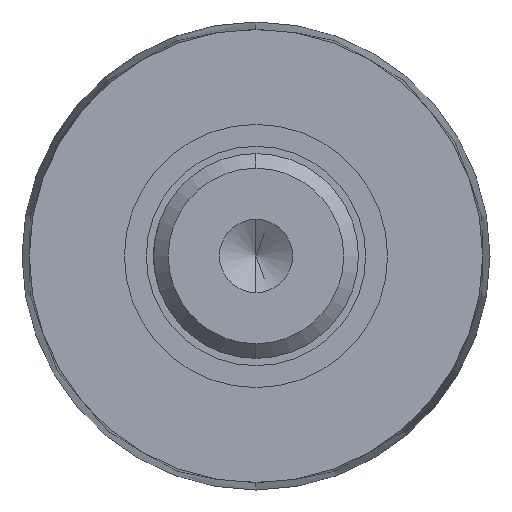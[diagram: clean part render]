
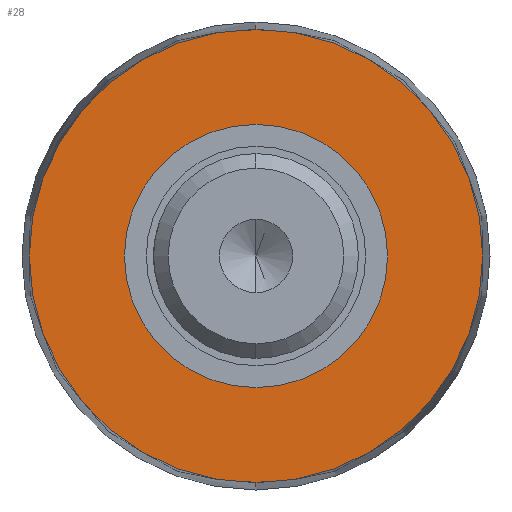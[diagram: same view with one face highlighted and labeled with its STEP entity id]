
A CAD part, left-side view. The second image highlights one B-rep face of the part: STEP entity #28.
In plain terms, the highlighted planar face has unit normal (-1, 0, 0).
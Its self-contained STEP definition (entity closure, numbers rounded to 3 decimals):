
#28 = ADVANCED_FACE ( 'NONE', ( #946, #1020 ), #457, .T. ) ;
#34 = CARTESIAN_POINT ( 'NONE',  ( 98.5, 0., 0. ) ) ;
#76 = VERTEX_POINT ( 'NONE', #858 ) ;
#142 = DIRECTION ( 'NONE',  ( 0., 0., -1. ) ) ;
#153 = VERTEX_POINT ( 'NONE', #370 ) ;
#176 = VERTEX_POINT ( 'NONE', #570 ) ;
#197 = ORIENTED_EDGE ( 'NONE', *, *, #343, .T. ) ;
#230 = ORIENTED_EDGE ( 'NONE', *, *, #956, .T. ) ;
#265 = ORIENTED_EDGE ( 'NONE', *, *, #1316, .T. ) ;
#275 = CIRCLE ( 'NONE', #763, 15.5 ) ;
#300 = EDGE_CURVE ( 'NONE', #76, #444, #459, .T. ) ;
#301 = CARTESIAN_POINT ( 'NONE',  ( 98.5, 0., -15.5 ) ) ;
#343 = EDGE_CURVE ( 'NONE', #176, #153, #1174, .T. ) ;
#353 = AXIS2_PLACEMENT_3D ( 'NONE', #556, #1157, #850 ) ;
#370 = CARTESIAN_POINT ( 'NONE',  ( 98.5, 0., -9. ) ) ;
#444 = VERTEX_POINT ( 'NONE', #301 ) ;
#457 = PLANE ( 'NONE',  #353 ) ;
#458 = DIRECTION ( 'NONE',  ( 1., 0., 0. ) ) ;
#459 = CIRCLE ( 'NONE', #983, 15.5 ) ;
#499 = DIRECTION ( 'NONE',  ( -1., 0., 0. ) ) ;
#556 = CARTESIAN_POINT ( 'NONE',  ( 98.5, 16., 0. ) ) ;
#570 = CARTESIAN_POINT ( 'NONE',  ( 98.5, 0., 9. ) ) ;
#585 = CARTESIAN_POINT ( 'NONE',  ( 98.5, 0., 0. ) ) ;
#595 = CARTESIAN_POINT ( 'NONE',  ( 98.5, 0., 0. ) ) ;
#598 = DIRECTION ( 'NONE',  ( 0., 0., 1. ) ) ;
#614 = EDGE_LOOP ( 'NONE', ( #230, #197 ) ) ;
#704 = DIRECTION ( 'NONE',  ( 0., 0., 1. ) ) ;
#715 = AXIS2_PLACEMENT_3D ( 'NONE', #595, #1293, #1103 ) ;
#748 = CIRCLE ( 'NONE', #1163, 9. ) ;
#763 = AXIS2_PLACEMENT_3D ( 'NONE', #906, #901, #598 ) ;
#850 = DIRECTION ( 'NONE',  ( 0., 0., 1. ) ) ;
#858 = CARTESIAN_POINT ( 'NONE',  ( 98.5, 0., 15.5 ) ) ;
#901 = DIRECTION ( 'NONE',  ( -1., 0., 0. ) ) ;
#906 = CARTESIAN_POINT ( 'NONE',  ( 98.5, 0., 0. ) ) ;
#923 = ORIENTED_EDGE ( 'NONE', *, *, #300, .T. ) ;
#946 = FACE_BOUND ( 'NONE', #614, .T. ) ;
#956 = EDGE_CURVE ( 'NONE', #153, #176, #748, .T. ) ;
#983 = AXIS2_PLACEMENT_3D ( 'NONE', #585, #499, #704 ) ;
#1020 = FACE_OUTER_BOUND ( 'NONE', #1219, .T. ) ;
#1103 = DIRECTION ( 'NONE',  ( 0., 0., -1. ) ) ;
#1157 = DIRECTION ( 'NONE',  ( -1., 0., 0. ) ) ;
#1163 = AXIS2_PLACEMENT_3D ( 'NONE', #34, #458, #142 ) ;
#1174 = CIRCLE ( 'NONE', #715, 9. ) ;
#1219 = EDGE_LOOP ( 'NONE', ( #265, #923 ) ) ;
#1293 = DIRECTION ( 'NONE',  ( 1., 0., 0. ) ) ;
#1316 = EDGE_CURVE ( 'NONE', #444, #76, #275, .T. ) ;
